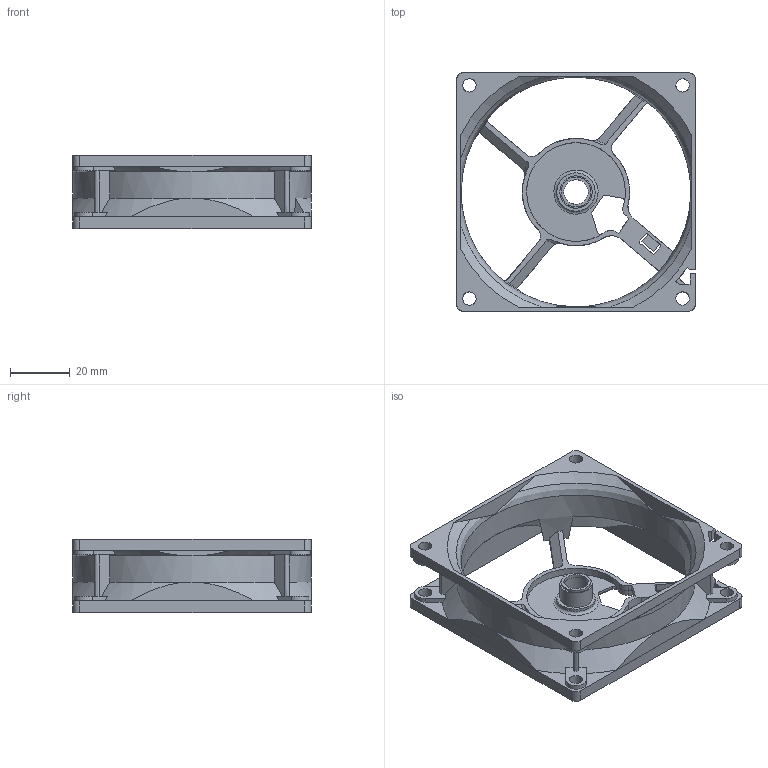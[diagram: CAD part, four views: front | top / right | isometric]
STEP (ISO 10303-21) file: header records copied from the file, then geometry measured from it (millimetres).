
FILE_DESCRIPTION( ('This file contains a STEP AP42 implementation' ,'as created by ZW3D STEP Interface translator.') ,'2;1' );
FILE_NAME( '8025-B唳俋遺.stp' ,'25 915.163749', (''), ('ZWCAD Software Co.'), 'Version 1.0', 'ZW3D to STEP translator', '' );
FILE_SCHEMA(('AUTOMOTIVE_DESIGN'));
Length unit declared in the file: millimetre
Products named in the file (1): 0
Bounding box: 80 x 80 x 24.5 mm (x, y, z)
Volume: 19770.2 mm3; surface area: 23486.9 mm2
Topology: 1 solids, 1 shells, 565 faces, 1648 edges, 1085 vertices
Faces by surface type: bspline 565
Entity records: 21168 total; most frequent: CARTESIAN_POINT 11220, ORIENTED_EDGE 3296, EDGE_CURVE 1648, B_SPLINE_CURVE_WITH_KNOTS 1222, VERTEX_POINT 1085, EDGE_LOOP 595, FACE_OUTER_BOUND 565, ADVANCED_FACE 565
